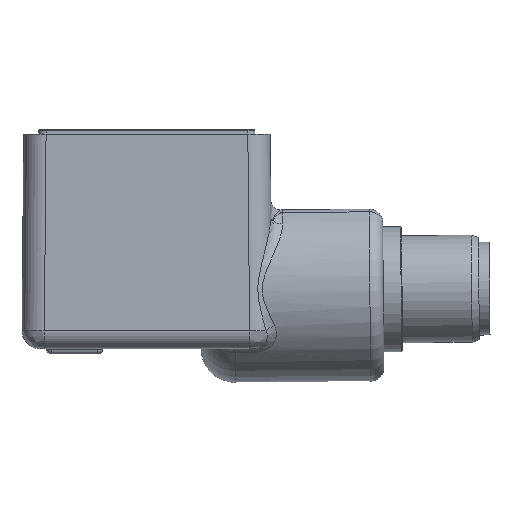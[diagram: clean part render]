
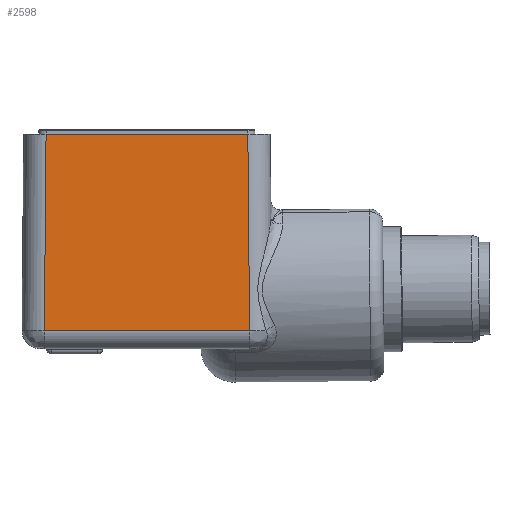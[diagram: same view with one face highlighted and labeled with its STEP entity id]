
A CAD part, left-side view. The second image highlights one B-rep face of the part: STEP entity #2598.
In plain terms, the highlighted planar face has unit normal (-1, 0, 0.009).
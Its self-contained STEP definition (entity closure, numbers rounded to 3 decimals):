
#2320=CARTESIAN_POINT('',(-10.482,-11.482,2.017));
#2321=VERTEX_POINT('',#2320);
#2347=CARTESIAN_POINT('',(-10.291,-11.291,24.));
#2348=VERTEX_POINT('',#2347);
#2356=CARTESIAN_POINT('',(-10.291,-11.291,24.0));
#2357=DIRECTION('',(-0.009,-0.009,-1.));
#2358=VECTOR('',#2357,21.984);
#2359=LINE('',#2356,#2358);
#2360=EDGE_CURVE('',#2348,#2321,#2359,.T.);
#2537=CARTESIAN_POINT('',(-10.482,11.482,2.017));
#2538=VERTEX_POINT('',#2537);
#2564=CARTESIAN_POINT('',(-10.482,-11.482,2.017));
#2565=DIRECTION('',(0.0,1.0,0.0));
#2566=VECTOR('',#2565,22.965);
#2567=LINE('',#2564,#2566);
#2568=EDGE_CURVE('',#2321,#2538,#2567,.T.);
#2575=CARTESIAN_POINT('',(-10.5,-14.,0.0));
#2576=DIRECTION('',(-1.,0.,0.009));
#2577=DIRECTION('',(0.0,-1.0,0.0));
#2578=AXIS2_PLACEMENT_3D('',#2575,#2576,#2577);
#2579=PLANE('',#2578);
#2580=ORIENTED_EDGE('',*,*,#2568,.F.);
#2581=ORIENTED_EDGE('',*,*,#2360,.F.);
#2582=CARTESIAN_POINT('',(-10.291,11.291,24.));
#2583=VERTEX_POINT('',#2582);
#2584=CARTESIAN_POINT('',(-10.291,-11.291,24.));
#2585=DIRECTION('',(0.0,1.0,0.0));
#2586=VECTOR('',#2585,22.581);
#2587=LINE('',#2584,#2586);
#2588=EDGE_CURVE('',#2348,#2583,#2587,.T.);
#2589=ORIENTED_EDGE('',*,*,#2588,.T.);
#2590=CARTESIAN_POINT('',(-10.482,11.482,2.017));
#2591=DIRECTION('',(0.009,-0.009,1.));
#2592=VECTOR('',#2591,21.984);
#2593=LINE('',#2590,#2592);
#2594=EDGE_CURVE('',#2538,#2583,#2593,.T.);
#2595=ORIENTED_EDGE('',*,*,#2594,.F.);
#2596=EDGE_LOOP('',(#2580,#2581,#2589,#2595));
#2597=FACE_OUTER_BOUND('',#2596,.T.);
#2598=ADVANCED_FACE('',(#2597),#2579,.T.);
